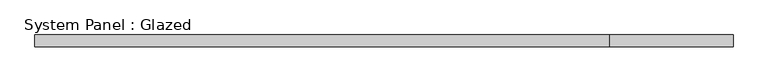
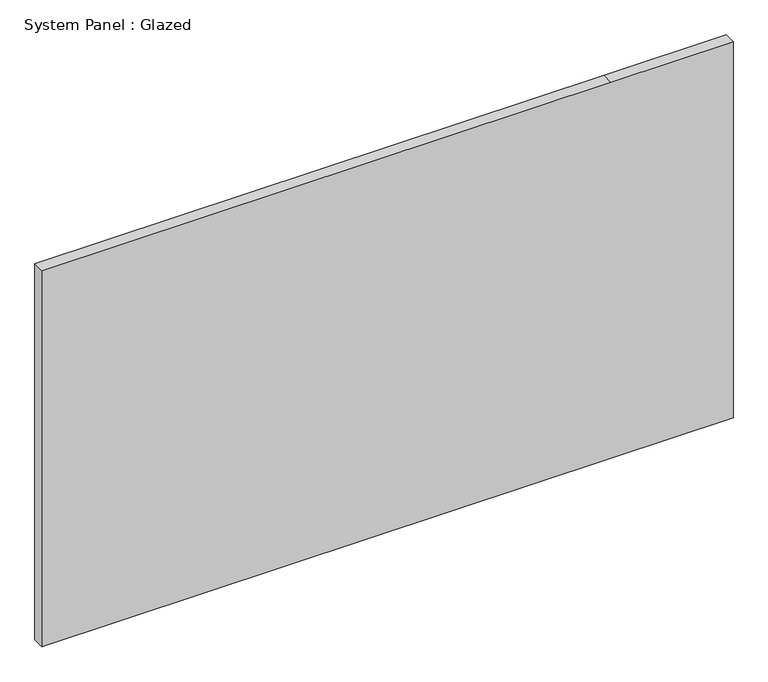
"""IFC4 building model written with IfcOpenShell, lengths in millimetres: plate geometry, System Panel : Glazed."""

from ifc_helpers import new_model, si_unit, frame, origin, place, context, project, spatial, polyline, outline, extrude, source, transform, mapped, element, save


def system_panel_glazed_f4fcbcda(model_context):
    return source(origin(), model_context, "Body", "SweptSolid", [
        extrude(outline(polyline([(0.0, -756.44375), (0.0, 488.95), (0.0, 756.44375), (869.95, 756.44375), (869.95, 488.95), (869.95, -756.44375), (0.0, -756.44375)])), frame((0.0, -44.45, 0.0), z_axis=(0.0, 1.0, 0.0), x_axis=(0.0, 0.0, 1.0)), (0.0, 0.0, 1.0), 25.4),
    ])


if __name__ == "__main__":
    model = new_model("IFC4")
    model_context = context("Model", 3, world=origin())
    ifc_project = project(units=[si_unit("LENGTHUNIT", "METRE", prefix="MILLI")], contexts=[model_context])
    site = spatial("IfcSite", under=ifc_project)
    building = spatial("IfcBuilding", under=site)
    placement = place(None, origin())
    system_panel_glazed_shape = system_panel_glazed_f4fcbcda(model_context)
    element("IfcPlate", 1, ObjectType="System Panel : Glazed", at=placement, inside=building, context=model_context, shape_type="MappedRepresentation", body=[
        mapped(system_panel_glazed_shape, transform((0.0, 0.0, 0.0), x_axis=(1.0, 0.0, 0.0), y_axis=(0.0, 1.0, 0.0), z_axis=(0.0, 0.0, 1.0))),
    ])
    save(model, "model.ifc")
